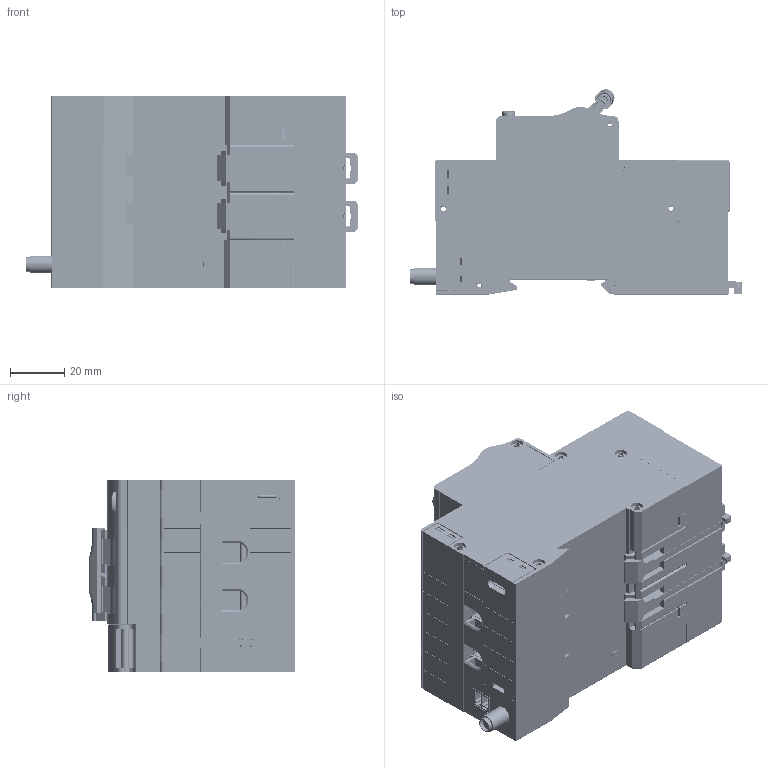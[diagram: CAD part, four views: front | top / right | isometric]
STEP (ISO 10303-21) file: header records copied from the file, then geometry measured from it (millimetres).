
FILE_DESCRIPTION (( 'STEP AP214' ), '1' );
FILE_NAME ('00NDB5EL-80X-2P.STEP', '2025-05-08T02:11:40', ( '' ), ( '' ), 'SwSTEP 2.0', 'SolidWorks 2018', '' );
FILE_SCHEMA (( 'AUTOMOTIVE_DESIGN' ));
Length unit declared in the file: millimetre
Products named in the file (1): 00NDB5EL-80X-2P
Bounding box: 121.86 x 75.39 x 70.8 mm (x, y, z)
Surface area: 230787.6 mm2 (no closed solid volume)
Topology: 0 solids, 237 shells, 14533 faces, 40099 edges, 26394 vertices
Faces by surface type: plane 9237, cylinder 3022, bspline 1468, cone 552, torus 244, sphere 10
Entity records: 811872 total; most frequent: CARTESIAN_POINT 289999, ORIENTED_EDGE 80084, DIRECTION 66297, EDGE_CURVE 40083, VECTOR 27895, LINE 27895, VERTEX_POINT 26392, AXIS2_PLACEMENT_3D 19201
